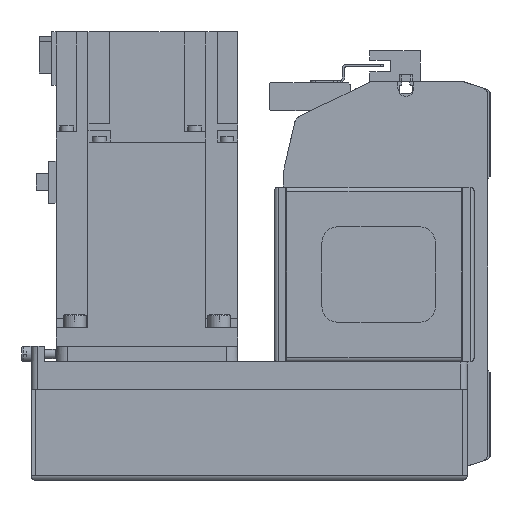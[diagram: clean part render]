
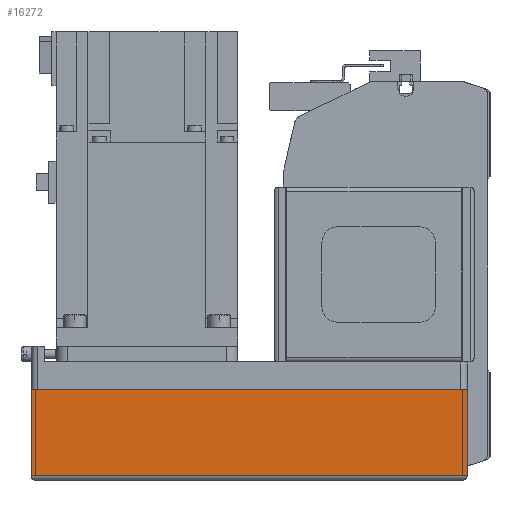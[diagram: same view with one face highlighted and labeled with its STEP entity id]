
A CAD part, left-side view. The second image highlights one B-rep face of the part: STEP entity #16272.
In plain terms, the highlighted planar face has unit normal (-1, 0, 0) as drawn and (0, -1, 0) by its records, which use the part's own axes.
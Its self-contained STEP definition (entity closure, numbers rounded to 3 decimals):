
#2598=ORIENTED_EDGE('',*,*,#6595,.F.);
#2599=ORIENTED_EDGE('',*,*,#6579,.F.);
#2600=ORIENTED_EDGE('',*,*,#6572,.T.);
#2601=ORIENTED_EDGE('',*,*,#6642,.T.);
#6572=EDGE_CURVE('',#8745,#8744,#10408,.T.);
#6579=EDGE_CURVE('',#8745,#8751,#10415,.T.);
#6595=EDGE_CURVE('',#8751,#8765,#10431,.T.);
#6642=EDGE_CURVE('',#8744,#8765,#10452,.T.);
#8744=VERTEX_POINT('',#25043);
#8745=VERTEX_POINT('',#25045);
#8751=VERTEX_POINT('',#25060);
#8765=VERTEX_POINT('',#25093);
#10408=LINE('',#25044,#11984);
#10415=LINE('',#25059,#11991);
#10431=LINE('',#25092,#12007);
#10452=LINE('',#25173,#12028);
#11984=VECTOR('',#20044,1000.);
#11991=VECTOR('',#20055,1000.);
#12007=VECTOR('',#20077,1000.);
#12028=VECTOR('',#20186,1000.);
#13422=EDGE_LOOP('',(#2598,#2599,#2600,#2601));
#14584=FACE_BOUND('',#13422,.T.);
#15577=PLANE('',#17455);
#16272=ADVANCED_FACE('',(#14584),#15577,.T.);
#17455=AXIS2_PLACEMENT_3D('',#25174,#20187,#20188);
#20044=DIRECTION('',(0.,0.,-1.));
#20055=DIRECTION('',(1.,0.,0.));
#20077=DIRECTION('',(0.,0.,-1.));
#20186=DIRECTION('',(1.,0.,0.));
#20187=DIRECTION('',(0.,-1.,0.));
#20188=DIRECTION('',(0.,0.,-1.));
#25043=CARTESIAN_POINT('',(-192.,-40.,-50.));
#25044=CARTESIAN_POINT('',(-192.,-40.,-12.1));
#25045=CARTESIAN_POINT('',(-192.,-40.,-12.1));
#25059=CARTESIAN_POINT('',(-192.,-40.,-12.1));
#25060=CARTESIAN_POINT('',(0.,-40.,-12.1));
#25092=CARTESIAN_POINT('',(0.,-40.,-12.1));
#25093=CARTESIAN_POINT('',(0.,-40.,-50.));
#25173=CARTESIAN_POINT('',(-192.,-40.,-50.));
#25174=CARTESIAN_POINT('',(-192.,-40.,-12.1));
